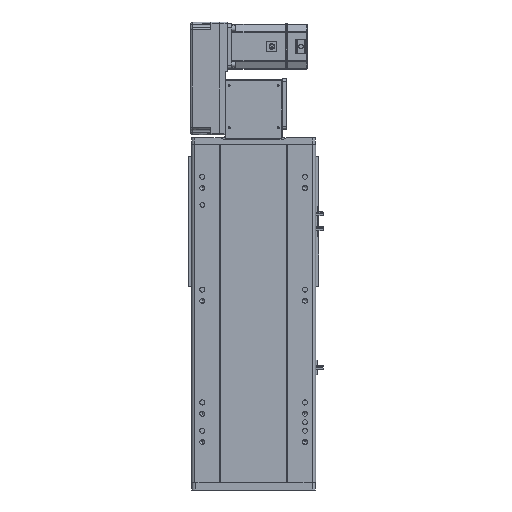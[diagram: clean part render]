
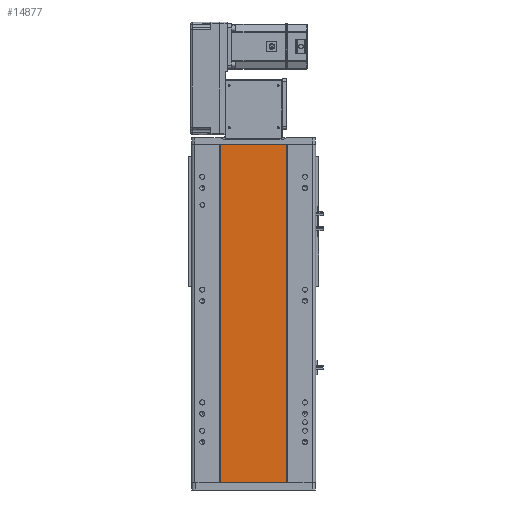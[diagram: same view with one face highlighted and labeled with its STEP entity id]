
A CAD part, front view. The second image highlights one B-rep face of the part: STEP entity #14877.
In plain terms, the highlighted planar face has unit normal (0, -1, 0).
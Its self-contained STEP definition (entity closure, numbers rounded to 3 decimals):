
#152 = LINE ( 'NONE', #176, #32009 ) ;
#176 = CARTESIAN_POINT ( 'NONE',  ( -59., 1., 299.5 ) ) ;
#297 = CARTESIAN_POINT ( 'NONE',  ( 59., 1., 299.5 ) ) ;
#1752 = AXIS2_PLACEMENT_3D ( 'NONE', #37913, #41860, #7774 ) ;
#2389 = CARTESIAN_POINT ( 'NONE',  ( -59., 1., 299.5 ) ) ;
#7774 = DIRECTION ( 'NONE',  ( -1., 0., 0. ) ) ;
#9730 = DIRECTION ( 'NONE',  ( 1., 0., 0. ) ) ;
#11003 = ORIENTED_EDGE ( 'NONE', *, *, #21465, .T. ) ;
#13083 = EDGE_CURVE ( 'NONE', #35333, #31394, #37727, .T. ) ;
#14877 = ADVANCED_FACE ( 'NONE', ( #40615 ), #33985, .F. ) ;
#16447 = ORIENTED_EDGE ( 'NONE', *, *, #23363, .T. ) ;
#21015 = ORIENTED_EDGE ( 'NONE', *, *, #48299, .F. ) ;
#21150 = VECTOR ( 'NONE', #39695, 1000. ) ;
#21465 = EDGE_CURVE ( 'NONE', #35141, #30394, #43579, .T. ) ;
#23363 = EDGE_CURVE ( 'NONE', #30394, #31394, #24478, .T. ) ;
#24478 = LINE ( 'NONE', #44500, #44711 ) ;
#30394 = VERTEX_POINT ( 'NONE', #38541 ) ;
#31122 = CARTESIAN_POINT ( 'NONE',  ( -59., 1., 299.5 ) ) ;
#31394 = VERTEX_POINT ( 'NONE', #33398 ) ;
#32009 = VECTOR ( 'NONE', #34780, 1000. ) ;
#33028 = ORIENTED_EDGE ( 'NONE', *, *, #13083, .F. ) ;
#33398 = CARTESIAN_POINT ( 'NONE',  ( 59., 1., -299.5 ) ) ;
#33985 = PLANE ( 'NONE',  #1752 ) ;
#34780 = DIRECTION ( 'NONE',  ( 1., 0., 0. ) ) ;
#35141 = VERTEX_POINT ( 'NONE', #31122 ) ;
#35333 = VERTEX_POINT ( 'NONE', #297 ) ;
#37727 = LINE ( 'NONE', #47276, #21150 ) ;
#37913 = CARTESIAN_POINT ( 'NONE',  ( -59., 1., 299.5 ) ) ;
#38541 = CARTESIAN_POINT ( 'NONE',  ( -59., 1., -299.5 ) ) ;
#39695 = DIRECTION ( 'NONE',  ( 0., 0., -1. ) ) ;
#40506 = VECTOR ( 'NONE', #45557, 1000. ) ;
#40615 = FACE_OUTER_BOUND ( 'NONE', #46270, .T. ) ;
#41860 = DIRECTION ( 'NONE',  ( 0., 1., 0. ) ) ;
#43579 = LINE ( 'NONE', #2389, #40506 ) ;
#44500 = CARTESIAN_POINT ( 'NONE',  ( -59., 1., -299.5 ) ) ;
#44711 = VECTOR ( 'NONE', #9730, 1000. ) ;
#45557 = DIRECTION ( 'NONE',  ( 0., 0., -1. ) ) ;
#46270 = EDGE_LOOP ( 'NONE', ( #16447, #33028, #21015, #11003 ) ) ;
#47276 = CARTESIAN_POINT ( 'NONE',  ( 59., 1., 299.5 ) ) ;
#48299 = EDGE_CURVE ( 'NONE', #35141, #35333, #152, .T. ) ;
